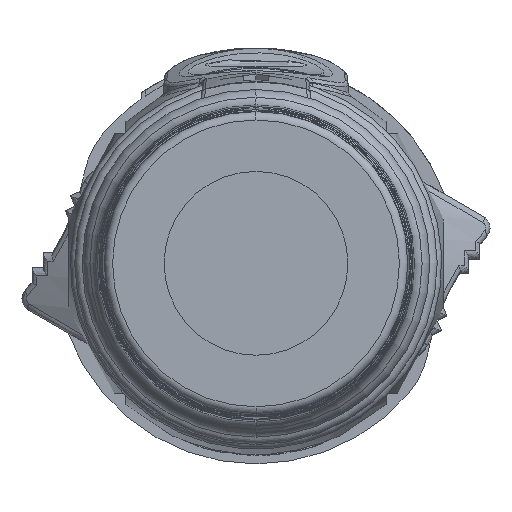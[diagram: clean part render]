
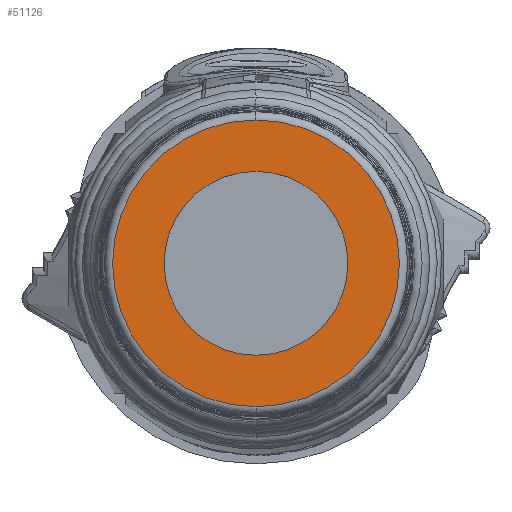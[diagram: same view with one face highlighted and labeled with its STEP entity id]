
A CAD part, front view. The second image highlights one B-rep face of the part: STEP entity #51126.
In plain terms, the highlighted planar face has unit normal (0, -1, 0).
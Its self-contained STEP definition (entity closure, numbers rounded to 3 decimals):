
#16812=CARTESIAN_POINT('',(0.,-39.,0.));
#16813=DIRECTION('',(0.,-1.,0.));
#16814=DIRECTION('',(0.,0.,-1.));
#16815=AXIS2_PLACEMENT_3D('',#16812,#16813,#16814);
#16817=CARTESIAN_POINT('',(0.,-39.,0.));
#16818=DIRECTION('',(0.,-1.,0.));
#16819=DIRECTION('',(0.,0.,1.));
#16820=AXIS2_PLACEMENT_3D('',#16817,#16818,#16819);
#16822=CARTESIAN_POINT('',(0.,-39.,0.));
#16823=DIRECTION('',(0.,1.,0.));
#16824=DIRECTION('',(1.,0.,0.));
#16825=AXIS2_PLACEMENT_3D('',#16822,#16823,#16824);
#16827=CARTESIAN_POINT('',(0.,-39.,0.));
#16828=DIRECTION('',(0.,1.,0.));
#16829=DIRECTION('',(-1.,0.,0.));
#16830=AXIS2_PLACEMENT_3D('',#16827,#16828,#16829);
#22295=CARTESIAN_POINT('',(0.,-39.,-8.581));
#22296=CARTESIAN_POINT('',(0.,-39.,8.581));
#22297=VERTEX_POINT('',#22295);
#22298=VERTEX_POINT('',#22296);
#22441=CARTESIAN_POINT('',(5.5,-39.,0.));
#22442=CARTESIAN_POINT('',(-5.5,-39.,0.));
#22443=VERTEX_POINT('',#22441);
#22444=VERTEX_POINT('',#22442);
#51110=CARTESIAN_POINT('',(0.,-39.,0.));
#51111=DIRECTION('',(0.,-1.,0.));
#51112=DIRECTION('',(0.,0.,-1.));
#51113=AXIS2_PLACEMENT_3D('',#51110,#51111,#51112);
#51114=PLANE('',#51113);
#51115=ORIENTED_EDGE('',*,*,#51093,.F.);
#51117=ORIENTED_EDGE('',*,*,#51116,.F.);
#51118=EDGE_LOOP('',(#51115,#51117));
#51119=FACE_OUTER_BOUND('',#51118,.F.);
#51121=ORIENTED_EDGE('',*,*,#51120,.F.);
#51123=ORIENTED_EDGE('',*,*,#51122,.F.);
#51124=EDGE_LOOP('',(#51121,#51123));
#51125=FACE_BOUND('',#51124,.F.);
#51126=ADVANCED_FACE('',(#51119,#51125),#51114,.T.);
#16816=CIRCLE('',#16815,8.581);
#16821=CIRCLE('',#16820,8.581);
#16826=CIRCLE('',#16825,5.5);
#16831=CIRCLE('',#16830,5.5);
#51093=EDGE_CURVE('',#22297,#22298,#16816,.T.);
#51116=EDGE_CURVE('',#22298,#22297,#16821,.T.);
#51120=EDGE_CURVE('',#22443,#22444,#16826,.T.);
#51122=EDGE_CURVE('',#22444,#22443,#16831,.T.);
